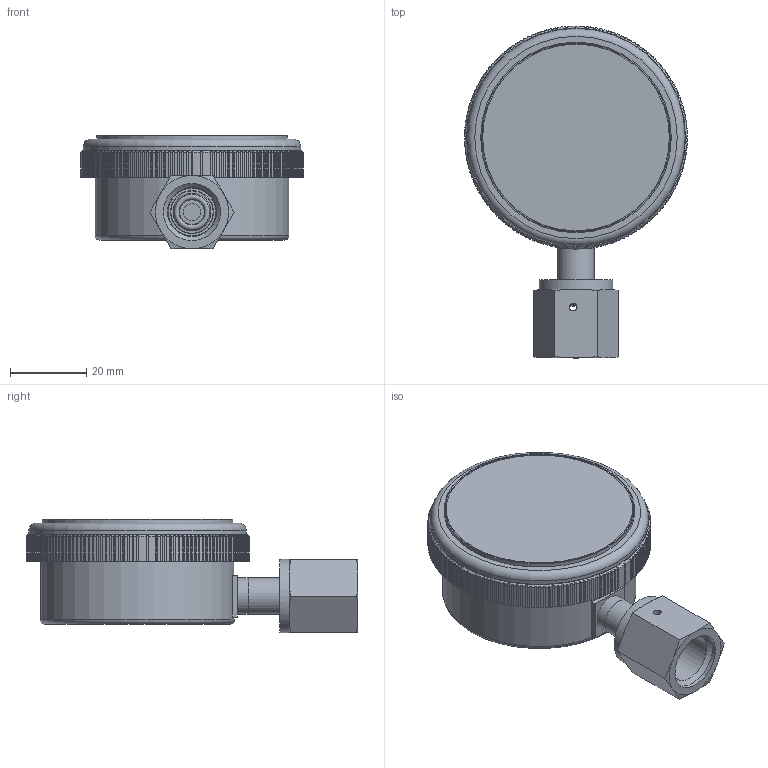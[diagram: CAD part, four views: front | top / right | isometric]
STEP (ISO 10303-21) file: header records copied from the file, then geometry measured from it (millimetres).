
FILE_DESCRIPTION(/* description */ (''),/* implementation_level */ '2;1');
FILE_NAME(/* name */ 'P800_50PI_LOW MOUNT_SWIVEL(F).stp',/* time_stamp */ '2025-03-26T19:31:56+09:00',/* author */ ('wise-209'),/* organization */ (''),/* preprocessor_version */ 'ST-DEVELOPER v19.2',/* originating_system */ 'Autodesk Inventor 2024',/* authorisation */ '');
FILE_SCHEMA (('AUTOMOTIVE_DESIGN { 1 0 10303 214 3 1 1 }'));
Length unit declared in the file: millimetre
Products named in the file (4): P8X0_50mm_A Type_SF_ASSY; P810_CASE,COVER,SHANK_ VCR; SHANK; 14NUT
Assembly tree (3 placements, depth 2):
  P8X0_50mm_A Type_SF_ASSY
    P810_CASE,COVER,SHANK_ VCR
    SHANK
    14NUT
Bounding box: 58.5 x 87.05 x 29.72 mm (x, y, z)
Volume: 58573.5 mm3; surface area: 19520.9 mm2
Topology: 3 solids, 4 shells, 653 faces, 1886 edges, 1251 vertices
Faces by surface type: plane 467, cylinder 160, cone 22, torus 4
Full cylindrical faces by diameter (mm): 2 x2, 4.5 x1, 9.53 x2, 9.9 x1, 11.3 x1, 12.7 x1, 12.8 x1, 15 x1, 19.2 x1, 48.998 x1, 50 x1, 50.8 x1, 55.5 x1, 57.1 x1
Entity records: 24193 total; most frequent: CARTESIAN_POINT 6440, ORIENTED_EDGE 3772, DIRECTION 3681, EDGE_CURVE 1886, LINE 1351, VECTOR 1351, VERTEX_POINT 1251, AXIS2_PLACEMENT_3D 1165
